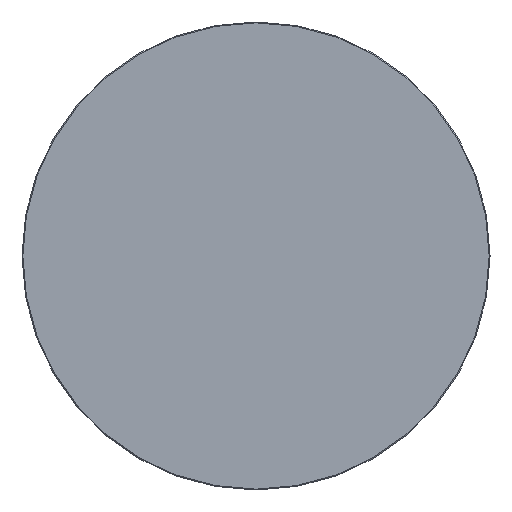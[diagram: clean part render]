
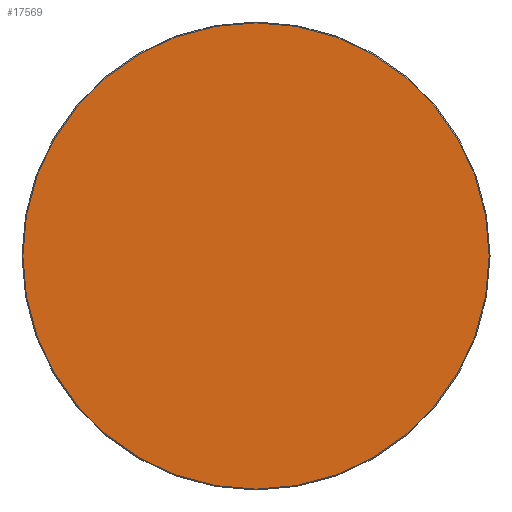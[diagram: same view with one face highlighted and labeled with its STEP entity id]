
A CAD part, top view. The second image highlights one B-rep face of the part: STEP entity #17569.
In plain terms, the highlighted planar face has unit normal (0, 0, 1).
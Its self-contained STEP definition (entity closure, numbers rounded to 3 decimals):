
#17494=CARTESIAN_POINT('',(0.,0.,20.));
#17495=DIRECTION('',(1.,0.,0.));
#17496=DIRECTION('',(0.,0.,1.));
#17497=AXIS2_PLACEMENT_3D('',#17494,#17496,#17495);
#17498=PLANE('',#17497);
#17499=CARTESIAN_POINT('',(-0.5,-398.5,20.));
#17500=VERTEX_POINT('',#17499);
#17501=CARTESIAN_POINT('',(0.5,-398.5,20.));
#17502=VERTEX_POINT('',#17501);
#17503=CARTESIAN_POINT('',(-0.5,-398.5,20.));
#17504=DIRECTION('',(1.,0.,0.));
#17505=VECTOR('',#17504,1.);
#17506=LINE('',#17503,#17505);
#17507=EDGE_CURVE('',#17500,#17502,#17506,.T.);
#17508=ORIENTED_EDGE('E105',*,*,#17507,.T.);
#17509=CARTESIAN_POINT('',(398.5,-0.5,20.));
#17510=VERTEX_POINT('',#17509);
#17511=CARTESIAN_POINT('',(0.5,-0.5,20.));
#17512=DIRECTION('',(0.,-1.,0.));
#17513=DIRECTION('',(0.,0.,1.));
#17514=AXIS2_PLACEMENT_3D('',#17511,#17513,#17512);
#17515=CIRCLE('',#17514,398.);
#17516=EDGE_CURVE('',#17502,#17510,#17515,.T.);
#17517=ORIENTED_EDGE('E107',*,*,#17516,.T.);
#17518=CARTESIAN_POINT('',(398.5,0.5,20.));
#17519=VERTEX_POINT('',#17518);
#17520=CARTESIAN_POINT('',(398.5,-0.5,20.));
#17521=DIRECTION('',(0.,1.,0.));
#17522=VECTOR('',#17521,1.);
#17523=LINE('',#17520,#17522);
#17524=EDGE_CURVE('',#17510,#17519,#17523,.T.);
#17525=ORIENTED_EDGE('E109',*,*,#17524,.T.);
#17526=CARTESIAN_POINT('',(0.5,398.5,20.));
#17527=VERTEX_POINT('',#17526);
#17528=CARTESIAN_POINT('',(0.5,0.5,20.));
#17529=DIRECTION('',(1.,0.,0.));
#17530=DIRECTION('',(0.,0.,1.));
#17531=AXIS2_PLACEMENT_3D('',#17528,#17530,#17529);
#17532=CIRCLE('',#17531,398.);
#17533=EDGE_CURVE('',#17519,#17527,#17532,.T.);
#17534=ORIENTED_EDGE('E111',*,*,#17533,.T.);
#17535=CARTESIAN_POINT('',(-0.5,398.5,20.));
#17536=VERTEX_POINT('',#17535);
#17537=CARTESIAN_POINT('',(0.5,398.5,20.));
#17538=DIRECTION('',(-1.,0.,0.));
#17539=VECTOR('',#17538,1.);
#17540=LINE('',#17537,#17539);
#17541=EDGE_CURVE('',#17527,#17536,#17540,.T.);
#17542=ORIENTED_EDGE('E113',*,*,#17541,.T.);
#17543=CARTESIAN_POINT('',(-398.5,0.5,20.));
#17544=VERTEX_POINT('',#17543);
#17545=CARTESIAN_POINT('',(-0.5,0.5,20.));
#17546=DIRECTION('',(0.,1.,0.));
#17547=DIRECTION('',(0.,0.,1.));
#17548=AXIS2_PLACEMENT_3D('',#17545,#17547,#17546);
#17549=CIRCLE('',#17548,398.);
#17550=EDGE_CURVE('',#17536,#17544,#17549,.T.);
#17551=ORIENTED_EDGE('E115',*,*,#17550,.T.);
#17552=CARTESIAN_POINT('',(-398.5,-0.5,20.));
#17553=VERTEX_POINT('',#17552);
#17554=CARTESIAN_POINT('',(-398.5,0.5,20.));
#17555=DIRECTION('',(0.,-1.,0.));
#17556=VECTOR('',#17555,1.);
#17557=LINE('',#17554,#17556);
#17558=EDGE_CURVE('',#17544,#17553,#17557,.T.);
#17559=ORIENTED_EDGE('E117',*,*,#17558,.T.);
#17560=CARTESIAN_POINT('',(-0.5,-0.5,20.));
#17561=DIRECTION('',(-1.,0.,0.));
#17562=DIRECTION('',(-0.,0.,1.));
#17563=AXIS2_PLACEMENT_3D('',#17560,#17562,#17561);
#17564=CIRCLE('',#17563,398.);
#17565=EDGE_CURVE('',#17553,#17500,#17564,.T.);
#17566=ORIENTED_EDGE('E119',*,*,#17565,.T.);
#17567=EDGE_LOOP('',(#17508,#17517,#17525,#17534,#17542,#17551,#17559,#17566));
#17568=FACE_OUTER_BOUND('',#17567,.T.);
#17569=ADVANCED_FACE('F2',(#17568),#17498,.T.);
